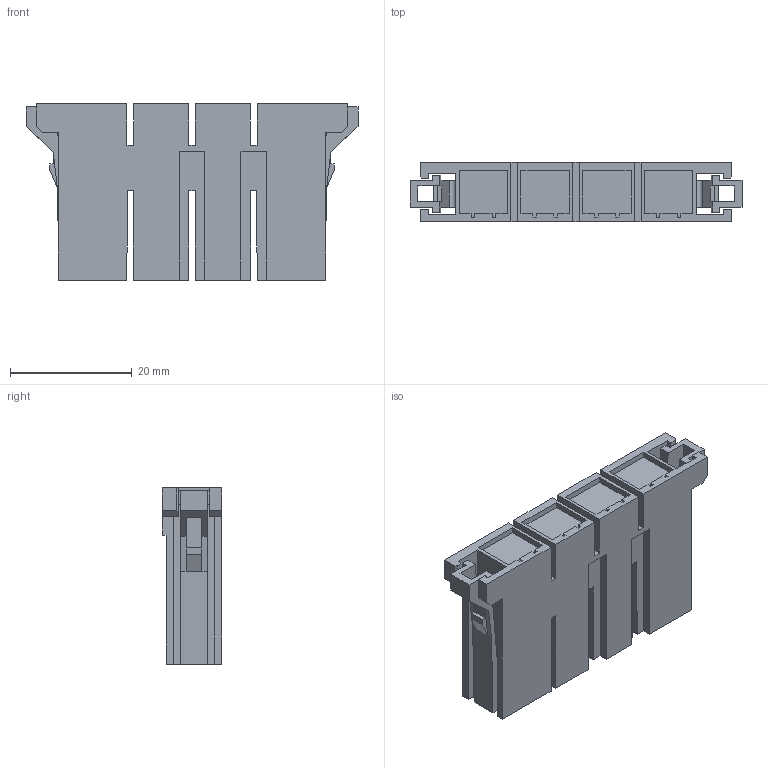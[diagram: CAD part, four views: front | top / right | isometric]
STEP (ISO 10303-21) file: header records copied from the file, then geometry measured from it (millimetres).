
FILE_DESCRIPTION (( 'STEP AP203' ), '1' );
FILE_NAME ('HC-10.16-4Y.STEP', '2024-08-09T03:49:37', ( '' ), ( '' ), 'SwSTEP 2.0', 'SolidWorks 2022', '' );
FILE_SCHEMA (( 'CONFIG_CONTROL_DESIGN' ));
Length unit declared in the file: millimetre
Products named in the file (1): HC-10.16-4Y
Bounding box: 54.62 x 9.8 x 29 mm (x, y, z)
Volume: 10265.6 mm3; surface area: 6611.4 mm2
Topology: 1 solids, 1 shells, 225 faces, 649 edges, 430 vertices
Faces by surface type: plane 223, cylinder 2
Entity records: 7308 total; most frequent: CARTESIAN_POINT 1305, ORIENTED_EDGE 1298, DIRECTION 1105, EDGE_CURVE 649, LINE 645, VECTOR 645, VERTEX_POINT 430, EDGE_LOOP 233
